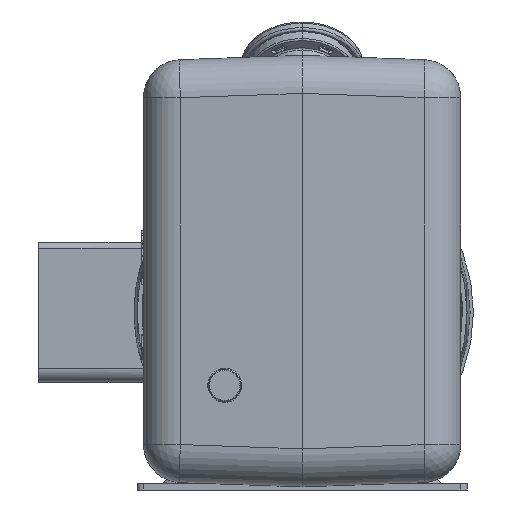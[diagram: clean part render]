
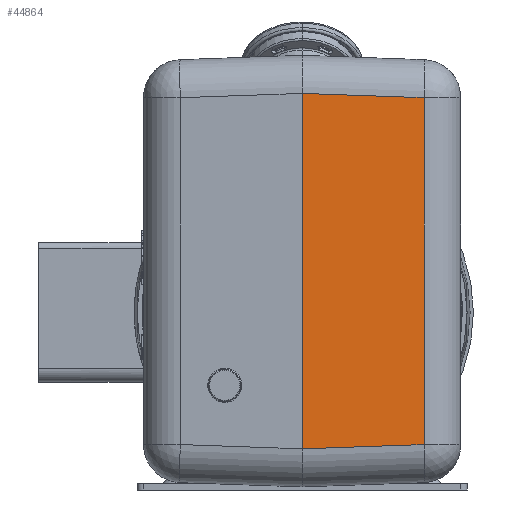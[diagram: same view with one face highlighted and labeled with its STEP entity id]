
A CAD part, front view. The second image highlights one B-rep face of the part: STEP entity #44864.
In plain terms, the highlighted planar face has unit normal (0.035, -0.999, 0).
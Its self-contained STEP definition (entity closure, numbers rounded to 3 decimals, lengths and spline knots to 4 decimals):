
#41351=DIRECTION('',(0.,0.,1.));
#41352=VECTOR('',#41351,7.0009);
#41353=CARTESIAN_POINT('',(0.,-10.905,-2.6905));
#41354=LINE('',#41353,#41352);
#41464=DIRECTION('',(-0.999,-0.035,0.035));
#41465=VECTOR('',#41464,2.4041);
#41466=CARTESIAN_POINT('',(2.4012,-10.8211,
4.2266));
#41467=LINE('',#41466,#41465);
#41477=DIRECTION('',(0.,0.,1.));
#41478=VECTOR('',#41477,6.8332);
#41479=CARTESIAN_POINT('',(2.4012,-10.8211,
-2.6066));
#41480=LINE('',#41479,#41478);
#41513=DIRECTION('',(0.999,0.035,0.035));
#41514=VECTOR('',#41513,2.4041);
#41515=CARTESIAN_POINT('',(0.,-10.905,-2.6905));
#41516=LINE('',#41515,#41514);
#43327=CARTESIAN_POINT('',(0.,-10.905,-2.6905));
#43328=VERTEX_POINT('',#43327);
#43329=CARTESIAN_POINT('',(2.4012,-10.8211,
-2.6066));
#43330=VERTEX_POINT('',#43329);
#43333=CARTESIAN_POINT('',(2.4012,-10.8211,
4.2266));
#43334=VERTEX_POINT('',#43333);
#43349=CARTESIAN_POINT('',(0.,-10.905,4.3105));
#43350=VERTEX_POINT('',#43349);
#44850=CARTESIAN_POINT('',(0.,-10.905,-3.44));
#44851=DIRECTION('',(-0.035,0.999,0.));
#44852=DIRECTION('',(0.,0.,-1.));
#44853=AXIS2_PLACEMENT_3D('',#44850,#44851,#44852);
#44854=PLANE('',#44853);
#44856=ORIENTED_EDGE('',*,*,#44855,.F.);
#44857=ORIENTED_EDGE('',*,*,#44837,.T.);
#44859=ORIENTED_EDGE('',*,*,#44858,.F.);
#44861=ORIENTED_EDGE('',*,*,#44860,.F.);
#44862=EDGE_LOOP('',(#44856,#44857,#44859,#44861));
#44863=FACE_OUTER_BOUND('',#44862,.F.);
#44864=ADVANCED_FACE('',(#44863),#44854,.F.);
#44837=EDGE_CURVE('',#43328,#43350,#41354,.T.);
#44855=EDGE_CURVE('',#43328,#43330,#41516,.T.);
#44858=EDGE_CURVE('',#43334,#43350,#41467,.T.);
#44860=EDGE_CURVE('',#43330,#43334,#41480,.T.);
